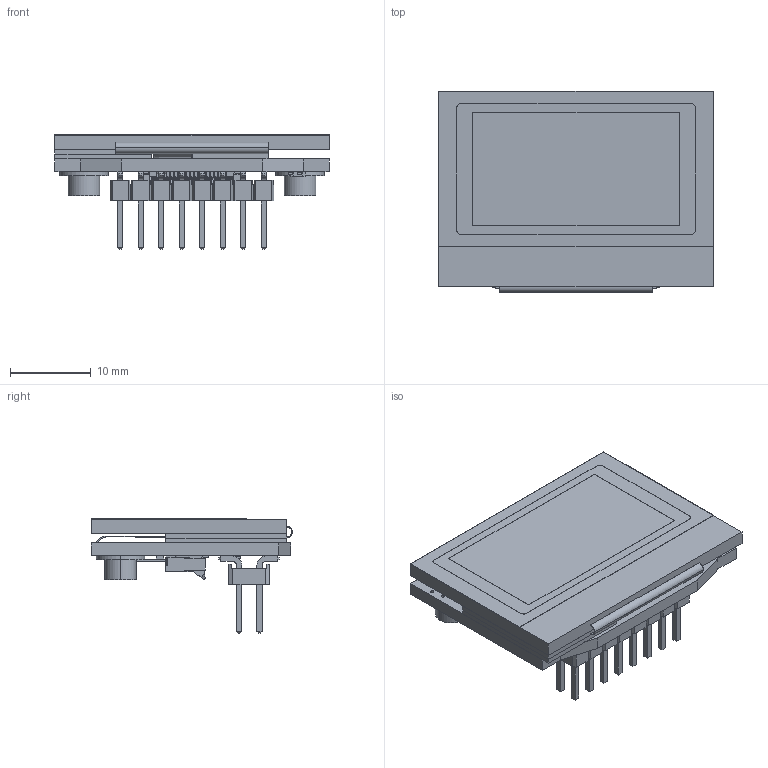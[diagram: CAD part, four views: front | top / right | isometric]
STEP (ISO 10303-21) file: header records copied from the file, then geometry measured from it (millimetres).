
FILE_DESCRIPTION (( 'STEP AP214' ), '1' );
FILE_NAME ('CFAG12864T3NFH-E1-1.STEP', '2021-02-04T15:30:47', ( '' ), ( '' ), 'SwSTEP 2.0', 'SolidWorks 2020', '' );
FILE_SCHEMA (( 'AUTOMOTIVE_DESIGN' ));
Length unit declared in the file: millimetre
Products named in the file (5): cfa_10110; CFPN_01712; CFAG12864T3NFH-E1-1; VHB_Tape_10099_Short; CFAG12864T3NFH
Assembly tree (6 placements, depth 2):
  CFAG12864T3NFH-E1-1
    CFAG12864T3NFH
    VHB_Tape_10099_Short  x2
    cfa_10110
    CFPN_01712  x2
Bounding box: 34 x 24.93 x 14.22 mm (x, y, z)
Volume: 3561.2 mm3; surface area: 8469.1 mm2
Topology: 37 solids, 37 shells, 2026 faces, 5569 edges, 3693 vertices
Faces by surface type: plane 1468, cylinder 552, cone 4, bspline 2
Entity records: 82851 total; most frequent: CARTESIAN_POINT 13267, ORIENTED_EDGE 11054, DIRECTION 10033, EDGE_CURVE 5527, VECTOR 3879, LINE 3879, VERTEX_POINT 3668, AXIS2_PLACEMENT_3D 3077
